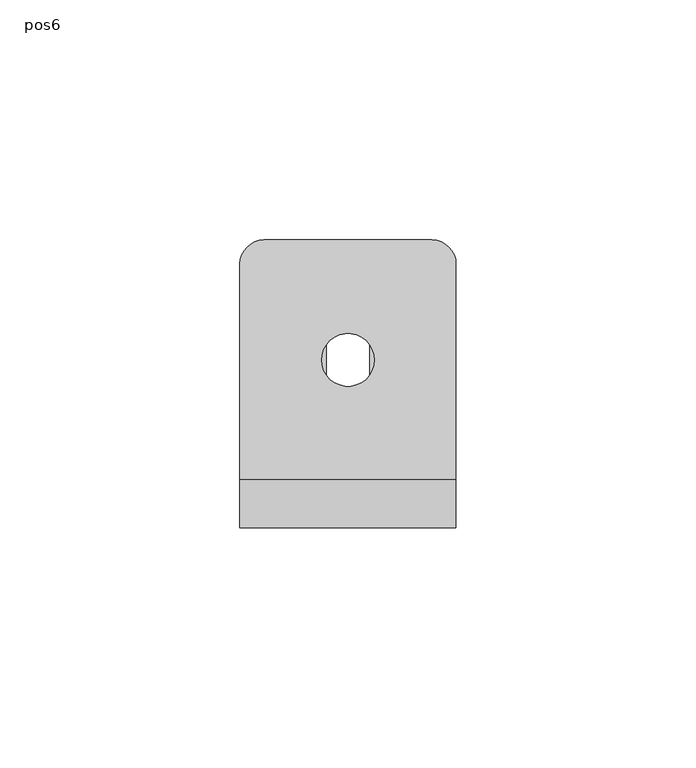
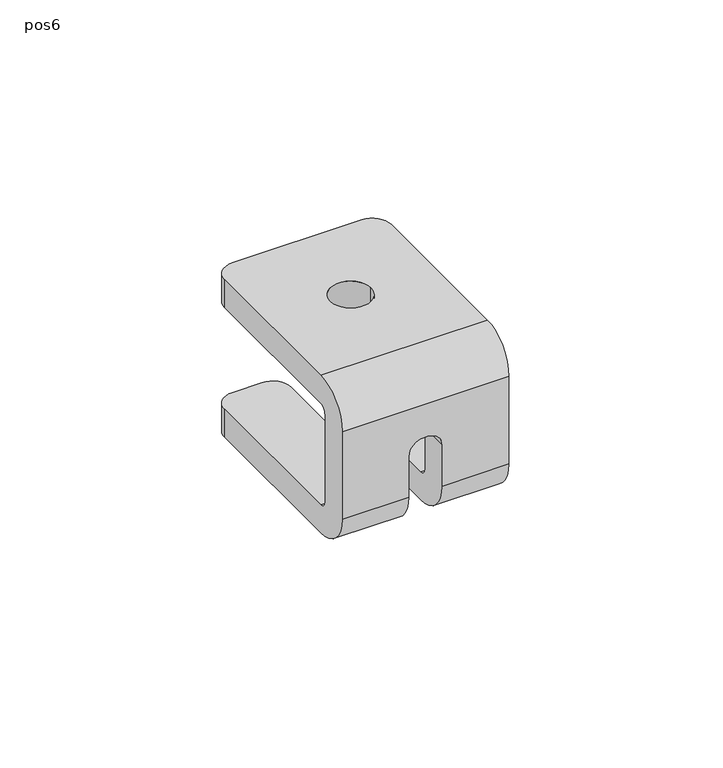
"""IFC4 building model written with IfcOpenShell, lengths in millimetres: proxy geometry, ePS10-BUMP-CVM : pos6."""

from ifc_helpers import new_model, si_unit, frame, origin, origin_with_axes, place, context, project, spatial, polyline, circle_curve, source, transform, mapped, element, save
from ifc_brep_helpers import plane_surface, cylinder_surface, revolved_surface, advanced_brep


def pos6_e7103955(model_context):
    return source(origin(), model_context, "Body", "AdvancedBrep", [
        advanced_brep(
        [(22.5, -25.0, 8.0), (22.5, -35.0, -2.0), (22.5, -35.0, -27.0), (22.5, -25.0, -37.0), (22.5, 20.0, -37.0), (22.5, 20.0, -29.0), (22.5, -25.0, -29.0), (22.5, -27.0, -27.0), (22.5, -27.0, -2.0), (22.5, -25.0, 0.0), (22.5, 20.0, 0.0), (22.5, 20.0, 8.0), (-22.5, -25.0, 0.0), (-22.5, -27.0, -2.0), (-22.5, -27.0, -27.0), (-22.5, -25.0, -29.0), (-22.5, 20.0, -29.0), (-22.5, 20.0, -37.0), (-22.5, -25.0, -37.0), (-22.5, -35.0, -27.0), (-22.5, -35.0, -2.0), (-22.5, -25.0, 8.0), (-22.5, 20.0, 8.0), (-22.5, 20.0, 0.0), (-4.5, -35.0, -27.0), (-4.5, -35.0, -15.424778), (-0.5, -35.0, -11.424778), (0.5, -35.0, -11.424778), (4.5, -35.0, -15.424778), (4.5, -35.0, -27.0), (4.5, -25.0, -37.0), (-4.5, -25.0, -37.0), (4.5, 20.0, -37.0), (9.5, 25.0, -37.0), (17.5, 25.0, -37.0), (-17.5, 25.0, -37.0), (-9.5, 25.0, -37.0), (-4.5, 20.0, -37.0), (-17.5, 25.0, -29.0), (-9.5, 25.0, -29.0), (17.5, 25.0, -29.0), (9.5, 25.0, -29.0), (4.5, 20.0, -29.0), (4.5, -25.0, -29.0), (-4.5, -25.0, -29.0), (-4.5, 20.0, -29.0), (4.5, -27.0, -27.0), (-4.5, -27.0, -27.0), (4.5, -27.0, -15.424778), (0.5, -27.0, -11.424778), (-0.5, -27.0, -11.424778), (-4.5, -27.0, -15.424778), (-17.5, 25.0, 0.0), (17.5, 25.0, 0.0), (-5.4761514, 0.0, 0.0), (5.4761514, 0.0, 0.0), (-17.5, 25.0, 8.0), (17.5, 25.0, 8.0), (5.4761514, 0.0, 8.0), (-5.4761514, 0.0, 8.0)],
        [
            (0, 1, circle_curve(frame((22.5, -25.0, -2.0), z_axis=(1.0, 0.0, 0.0), x_axis=(0.0, 1.0, 0.0)), 10.0)),
            (1, 2),
            (2, 3, circle_curve(frame((22.5, -25.0, -27.0), z_axis=(1.0, 0.0, 0.0), x_axis=(0.0, 1.0, 0.0)), 10.0)),
            (3, 4),
            (4, 5),
            (5, 6),
            (6, 7, circle_curve(frame((22.5, -25.0, -27.0), z_axis=(-1.0, 0.0, 0.0), x_axis=(0.0, 1.0, 0.0)), 2.0)),
            (7, 8),
            (8, 9, circle_curve(frame((22.5, -25.0, -2.0), z_axis=(-1.0, 0.0, 0.0), x_axis=(0.0, 1.0, 0.0)), 2.0)),
            (9, 10),
            (10, 11),
            (11, 0),
            (12, 13, circle_curve(frame((-22.5, -25.0, -2.0), z_axis=(1.0, 0.0, 0.0), x_axis=(0.0, 1.0, 0.0)), 2.0)),
            (13, 14),
            (14, 15, circle_curve(frame((-22.5, -25.0, -27.0), z_axis=(1.0, 0.0, 0.0), x_axis=(0.0, 1.0, 0.0)), 2.0)),
            (15, 16),
            (16, 17),
            (17, 18),
            (18, 19, circle_curve(frame((-22.5, -25.0, -27.0), z_axis=(-1.0, 0.0, 0.0), x_axis=(0.0, 1.0, 0.0)), 10.0)),
            (19, 20),
            (20, 21, circle_curve(frame((-22.5, -25.0, -2.0), z_axis=(-1.0, 0.0, 0.0), x_axis=(0.0, 1.0, 0.0)), 10.0)),
            (21, 22),
            (22, 23),
            (23, 12),
            (0, 21),
            (20, 1),
            (19, 24),
            (24, 25),
            (25, 26, circle_curve(frame((-0.5, -35.0, -15.424778), z_axis=(0.0, 1.0, 0.0), x_axis=(1.0, 0.0, 0.0)), 4.0)),
            (26, 27),
            (27, 28, circle_curve(frame((0.5, -35.0, -15.424778), z_axis=(0.0, 1.0, 0.0), x_axis=(1.0, 0.0, 0.0)), 4.0)),
            (28, 29),
            (29, 2),
            (29, 30, circle_curve(frame((4.5, -25.0, -27.0), z_axis=(1.0, 0.0, 0.0), x_axis=(0.0, 1.0, 0.0)), 10.0)),
            (30, 3),
            (18, 31),
            (31, 24, circle_curve(frame((-4.5, -25.0, -27.0), z_axis=(-1.0, 0.0, 0.0), x_axis=(0.0, 1.0, 0.0)), 10.0)),
            (30, 32),
            (32, 33, circle_curve(frame((9.5, 20.0, -37.0), z_axis=(0.0, 0.0, -1.0), x_axis=(-1.0, 0.0, 0.0)), 5.0)),
            (33, 34),
            (34, 4, circle_curve(frame((17.5, 20.0, -37.0), z_axis=(0.0, 0.0, -1.0), x_axis=(-1.0, 0.0, 0.0)), 5.0)),
            (17, 35, circle_curve(frame((-17.5, 20.0, -37.0), z_axis=(0.0, 0.0, -1.0), x_axis=(1.0, 0.0, 0.0)), 5.0)),
            (35, 36),
            (36, 37, circle_curve(frame((-9.5, 20.0, -37.0), z_axis=(0.0, 0.0, -1.0), x_axis=(1.0, 0.0, 0.0)), 5.0)),
            (37, 31),
            (35, 38),
            (38, 39),
            (39, 36),
            (40, 34),
            (33, 41),
            (41, 40),
            (5, 40, circle_curve(frame((17.5, 20.0, -29.0), z_axis=(0.0, 0.0, 1.0), x_axis=(-1.0, 0.0, 0.0)), 5.0)),
            (41, 42, circle_curve(frame((9.5, 20.0, -29.0), z_axis=(0.0, 0.0, 1.0), x_axis=(-1.0, 0.0, 0.0)), 5.0)),
            (42, 43),
            (43, 6),
            (15, 44),
            (44, 45),
            (45, 39, circle_curve(frame((-9.5, 20.0, -29.0), z_axis=(0.0, 0.0, 1.0), x_axis=(1.0, 0.0, 0.0)), 5.0)),
            (38, 16, circle_curve(frame((-17.5, 20.0, -29.0), z_axis=(0.0, 0.0, 1.0), x_axis=(1.0, 0.0, 0.0)), 5.0)),
            (43, 46, circle_curve(frame((4.5, -25.0, -27.0), z_axis=(-1.0, 0.0, 0.0), x_axis=(0.0, 1.0, 0.0)), 2.0)),
            (46, 7),
            (14, 47),
            (47, 44, circle_curve(frame((-4.5, -25.0, -27.0), z_axis=(1.0, 0.0, 0.0), x_axis=(0.0, 1.0, 0.0)), 2.0)),
            (46, 48),
            (48, 49, circle_curve(frame((0.5, -27.0, -15.424778), z_axis=(0.0, -1.0, 0.0), x_axis=(1.0, 0.0, 0.0)), 4.0)),
            (49, 50),
            (50, 51, circle_curve(frame((-0.5, -27.0, -15.424778), z_axis=(0.0, -1.0, 0.0), x_axis=(1.0, 0.0, 0.0)), 4.0)),
            (51, 47),
            (13, 8),
            (12, 9),
            (23, 52, circle_curve(frame((-17.5, 20.0, 0.0), z_axis=(0.0, 0.0, -1.0), x_axis=(1.0, 0.0, 0.0)), 5.0)),
            (52, 53),
            (53, 10, circle_curve(frame((17.5, 20.0, 0.0), z_axis=(0.0, 0.0, -1.0), x_axis=(-1.0, 0.0, 0.0)), 5.0)),
            (54, 55, circle_curve(origin_with_axes(), 5.4761514)),
            (55, 54, circle_curve(origin_with_axes(), 5.4761514)),
            (52, 56),
            (56, 57),
            (57, 53),
            (11, 57, circle_curve(frame((17.5, 20.0, 8.0), z_axis=(0.0, 0.0, 1.0), x_axis=(-1.0, 0.0, 0.0)), 5.0)),
            (56, 22, circle_curve(frame((-17.5, 20.0, 8.0), z_axis=(0.0, 0.0, 1.0), x_axis=(1.0, 0.0, 0.0)), 5.0)),
            (58, 59, circle_curve(frame((0.0, 0.0, 8.0), z_axis=(0.0, 0.0, -1.0), x_axis=(1.0, 0.0, 0.0)), 5.4761514)),
            (59, 58, circle_curve(frame((0.0, 0.0, 8.0), z_axis=(0.0, 0.0, -1.0), x_axis=(1.0, 0.0, 0.0)), 5.4761514)),
            (58, 55),
            (54, 59),
            (28, 48),
            (42, 32),
            (27, 49),
            (26, 50),
            (25, 51),
            (37, 45),
        ],
        [
            plane_surface(frame((22.5, -15.0, -2.0), z_axis=(1.0, 0.0, 0.0), x_axis=(0.0, 0.0, 1.0))),
            plane_surface(frame((-22.5, -15.0, -2.0), z_axis=(-1.0, 0.0, 0.0), x_axis=(0.0, 0.0, -1.0))),
            cylinder_surface(frame((-22.5, -25.0, -2.0), z_axis=(1.0, 0.0, 0.0), x_axis=(0.0, 1.0, 0.0)), 10.0),
            plane_surface(frame((22.5, -35.0, -2.0), z_axis=(0.0, -1.0, 0.0), x_axis=(-1.0, 0.0, 0.0))),
            cylinder_surface(frame((-22.5, -25.0, -27.0), z_axis=(1.0, 0.0, 0.0), x_axis=(0.0, 1.0, 0.0)), 10.0),
            plane_surface(frame((22.5, -25.0, -37.0), z_axis=(0.0, 0.0, -1.0), x_axis=(-1.0, 0.0, 0.0))),
            plane_surface(frame((22.5, 25.0, -37.0), z_axis=(0.0, 1.0, 0.0), x_axis=(-1.0, 0.0, 0.0))),
            plane_surface(frame((22.5, 25.0, -29.0), z_axis=(0.0, 0.0, 1.0), x_axis=(-1.0, 0.0, 0.0))),
            revolved_surface(polyline([(4.5, -23.0, -27.0), (22.5, -23.0, -27.0)]), (-22.5, -25.0, -27.0), (-1.0, 0.0, 0.0)),
            revolved_surface(polyline([(-22.5, -23.0, -27.0), (-4.5, -23.0, -27.0)]), (-22.5, -25.0, -27.0), (-1.0, 0.0, 0.0)),
            plane_surface(frame((22.5, -27.0, -27.0), z_axis=(0.0, 1.0, 0.0), x_axis=(-1.0, 0.0, 0.0))),
            revolved_surface(polyline([(-22.5, -23.0, -2.0), (22.5, -23.0, -2.0)]), (-22.5, -25.0, -2.0), (-1.0, 0.0, 0.0)),
            plane_surface(frame((22.5, -25.0, 0.0), z_axis=(0.0, 0.0, -1.0), x_axis=(-1.0, 0.0, 0.0))),
            plane_surface(frame((22.5, 25.0, 0.0), z_axis=(0.0, 1.0, 0.0), x_axis=(-1.0, 0.0, 0.0))),
            plane_surface(frame((22.5, 25.0, 8.0), z_axis=(0.0, 0.0, 1.0), x_axis=(-1.0, 0.0, 0.0))),
            cylinder_surface(frame((-17.5, 20.0, -37.0), z_axis=(0.0, 0.0, -1.0), x_axis=(1.0, 0.0, 0.0)), 5.0),
            cylinder_surface(frame((17.5, 20.0, 0.0), z_axis=(0.0, 0.0, -1.0), x_axis=(-1.0, 0.0, 0.0)), 5.0),
            revolved_surface(polyline([(5.4761514, 0.0, 8.0), (5.4761514, 0.0, 0.0)]), (0.0, 0.0, 0.0), (0.0, 0.0, 1.0)),
            plane_surface(frame((4.5, -35.0, -67.0), z_axis=(-1.0, 0.0, 0.0), x_axis=(0.0, 1.0, 0.0))),
            revolved_surface(polyline([(4.5, -35.0, -15.424778), (4.5, -27.0, -15.424778)]), (0.5, 25.0, -15.424778), (0.0, -1.0, 0.0)),
            plane_surface(frame((0.5, -35.0, -11.424778), z_axis=(0.0, 0.0, -1.0), x_axis=(0.0, 1.0, 0.0))),
            revolved_surface(polyline([(3.5, -35.0, -15.424778), (3.5, -27.0, -15.424778)]), (-0.5, 25.0, -15.424778), (0.0, -1.0, 0.0)),
            plane_surface(frame((-4.5, -35.0, -15.424778), z_axis=(1.0, 0.0, 0.0), x_axis=(0.0, 1.0, 0.0))),
            cylinder_surface(frame((-9.5, 20.0, -37.0), z_axis=(0.0, 0.0, -1.0), x_axis=(1.0, 0.0, 0.0)), 5.0),
            cylinder_surface(frame((9.5, 20.0, 0.0), z_axis=(0.0, 0.0, -1.0), x_axis=(-1.0, 0.0, 0.0)), 5.0),
        ],
        [
            (0, [[1, 2, 3, 4, 5, 6, 7, 8, 9, 10, 11, 12]]),
            (1, [[13, 14, 15, 16, 17, 18, 19, 20, 21, 22, 23, 24]]),
            (2, [[-1, 25, -21, 26]]),
            (3, [[-2, -26, -20, 27, 28, 29, 30, 31, 32, 33]]),
            (4, [[-3, -33, 34, 35]]),
            (4, [[-19, 36, 37, -27]]),
            (5, [[-4, -35, 38, 39, 40, 41]]),
            (5, [[-18, 42, 43, 44, 45, -36]]),
            (6, [[46, 47, 48, -43]]),
            (6, [[49, -40, 50, 51]]),
            (7, [[-6, 52, -51, 53, 54, 55]]),
            (7, [[-16, 56, 57, 58, -47, 59]]),
            (8, [[-7, -55, 60, 61]]),
            (9, [[-15, 62, 63, -56]]),
            (10, [[-8, -61, 64, 65, 66, 67, 68, -62, -14, 69]]),
            (11, [[-9, -69, -13, 70]]),
            (12, [[-70, -24, 71, 72, 73, -10], [74, 75]]),
            (13, [[-72, 76, 77, 78]]),
            (14, [[-25, -12, 79, -77, 80, -22], [81, 82]]),
            (15, [[-17, -59, -46, -42]]),
            (15, [[-23, -80, -76, -71]]),
            (16, [[-5, -41, -49, -52]]),
            (16, [[-11, -73, -78, -79]]),
            (17, [[83, -74, 84, -81]]),
            (17, [[-83, -82, -84, -75]]),
            (18, [[85, -64, -60, -54, 86, -38, -34, -32]]),
            (19, [[-85, -31, 87, -65]]),
            (20, [[-87, -30, 88, -66]]),
            (21, [[-88, -29, 89, -67]]),
            (22, [[-89, -28, -37, -45, 90, -57, -63, -68]]),
            (23, [[-44, -48, -58, -90]]),
            (24, [[-39, -86, -53, -50]]),
        ],
    ),
    ])


if __name__ == "__main__":
    model = new_model("IFC4")
    model_context = context("Model", 3, world=origin())
    ifc_project = project(units=[si_unit("LENGTHUNIT", "METRE", prefix="MILLI")], contexts=[model_context])
    site = spatial("IfcSite", under=ifc_project)
    building = spatial("IfcBuilding", under=site)
    placement = place(None, origin())
    pos6_shape = pos6_e7103955(model_context)
    element("IfcBuildingElementProxy", 1, Name="ePS10-BUMP-CVM : pos6", ObjectType="ePS10-BUMP-CVM : pos6", at=placement, inside=building, context=model_context, shape_type="MappedRepresentation", body=[
        mapped(pos6_shape, transform((0.0, 0.0, 0.0), x_axis=(1.0, 0.0, 0.0), y_axis=(0.0, 1.0, 0.0), z_axis=(0.0, 0.0, 1.0))),
    ])
    save(model, "model.ifc")
